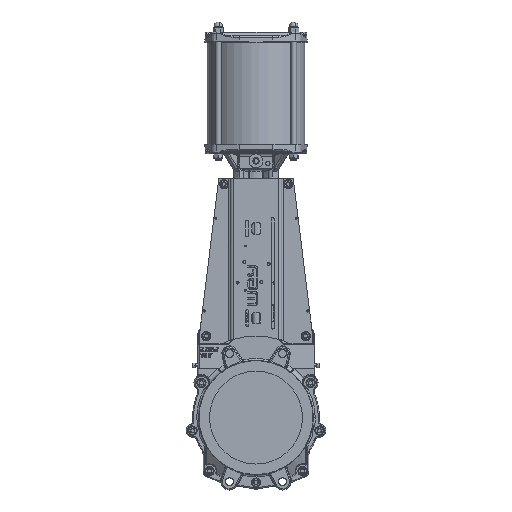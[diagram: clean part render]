
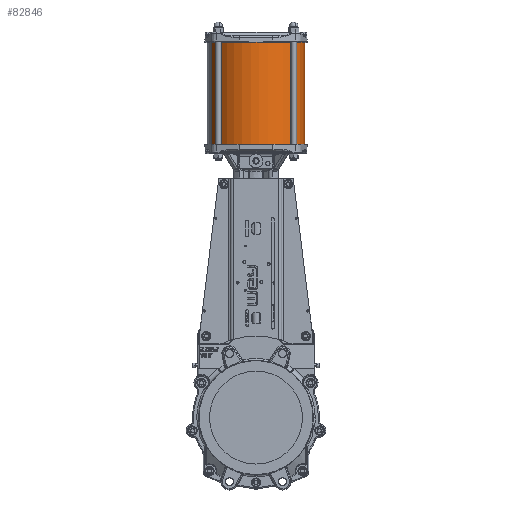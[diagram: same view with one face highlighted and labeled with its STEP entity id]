
A CAD part, top view. The second image highlights one B-rep face of the part: STEP entity #82846.
In plain terms, the highlighted cylindrical face has radius 105 mm (diameter 210 mm), a partial arc.
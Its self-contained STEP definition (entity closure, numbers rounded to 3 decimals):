
#10490 = CIRCLE ( 'NONE', #135823, 105. ) ;
#12051 = VECTOR ( 'NONE', #71939, 1000. ) ;
#23590 = EDGE_LOOP ( 'NONE', ( #94154, #94406, #41011, #136089 ) ) ;
#40566 = FACE_OUTER_BOUND ( 'NONE', #23590, .T. ) ;
#41011 = ORIENTED_EDGE ( 'NONE', *, *, #44291, .T. ) ;
#44291 = EDGE_CURVE ( 'NONE', #107696, #135026, #127998, .T. ) ;
#48354 = DIRECTION ( 'NONE',  ( 0.916, 0., -0.402 ) ) ;
#56149 = DIRECTION ( 'NONE',  ( 0., 1., 0. ) ) ;
#71514 = CARTESIAN_POINT ( 'NONE',  ( 0., 586., -0.25 ) ) ;
#71939 = DIRECTION ( 'NONE',  ( 0., 1., 0. ) ) ;
#79096 = DIRECTION ( 'NONE',  ( 0., 1., 0. ) ) ;
#81176 = EDGE_CURVE ( 'NONE', #95564, #135026, #10490, .T. ) ;
#82846 = ADVANCED_FACE ( 'NONE', ( #40566 ), #181788, .T. ) ;
#86590 = VECTOR ( 'NONE', #133929, 1000. ) ;
#87100 = DIRECTION ( 'NONE',  ( 0., 0., -1. ) ) ;
#94154 = ORIENTED_EDGE ( 'NONE', *, *, #183243, .F. ) ;
#94406 = ORIENTED_EDGE ( 'NONE', *, *, #112680, .T. ) ;
#95564 = VERTEX_POINT ( 'NONE', #164256 ) ;
#107696 = VERTEX_POINT ( 'NONE', #110682 ) ;
#110074 = AXIS2_PLACEMENT_3D ( 'NONE', #172247, #79096, #48354 ) ;
#110682 = CARTESIAN_POINT ( 'NONE',  ( 96.163, 586., -42.412 ) ) ;
#112680 = EDGE_CURVE ( 'NONE', #171773, #107696, #130775, .T. ) ;
#114522 = AXIS2_PLACEMENT_3D ( 'NONE', #71514, #180306, #87100 ) ;
#127998 = LINE ( 'NONE', #180131, #86590 ) ;
#130775 = CIRCLE ( 'NONE', #114522, 105. ) ;
#131607 = LINE ( 'NONE', #135868, #12051 ) ;
#133929 = DIRECTION ( 'NONE',  ( 0., 1., 0. ) ) ;
#135026 = VERTEX_POINT ( 'NONE', #161344 ) ;
#135823 = AXIS2_PLACEMENT_3D ( 'NONE', #149412, #56149, #165059 ) ;
#135868 = CARTESIAN_POINT ( 'NONE',  ( -96.163, 810., 41.912 ) ) ;
#136089 = ORIENTED_EDGE ( 'NONE', *, *, #81176, .F. ) ;
#149412 = CARTESIAN_POINT ( 'NONE',  ( 0., 810., -0.25 ) ) ;
#161344 = CARTESIAN_POINT ( 'NONE',  ( 96.163, 810., -42.412 ) ) ;
#164256 = CARTESIAN_POINT ( 'NONE',  ( -96.163, 810., 41.912 ) ) ;
#165059 = DIRECTION ( 'NONE',  ( 0.916, 0., -0.402 ) ) ;
#171773 = VERTEX_POINT ( 'NONE', #192230 ) ;
#172247 = CARTESIAN_POINT ( 'NONE',  ( 0., 810., -0.25 ) ) ;
#180131 = CARTESIAN_POINT ( 'NONE',  ( 96.163, 810., -42.412 ) ) ;
#180306 = DIRECTION ( 'NONE',  ( 0., 1., 0. ) ) ;
#181788 = CYLINDRICAL_SURFACE ( 'NONE', #110074, 105. ) ;
#183243 = EDGE_CURVE ( 'NONE', #171773, #95564, #131607, .T. ) ;
#192230 = CARTESIAN_POINT ( 'NONE',  ( -96.163, 586., 41.912 ) ) ;
